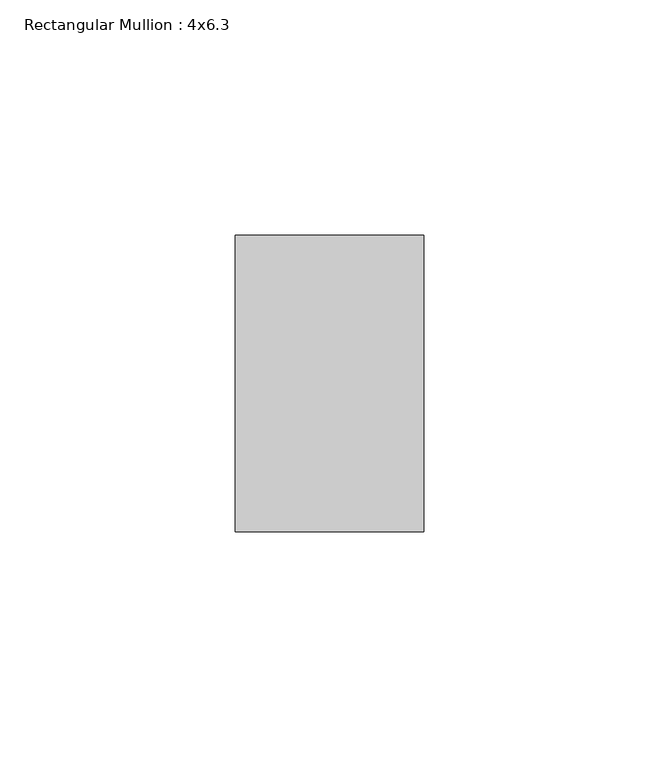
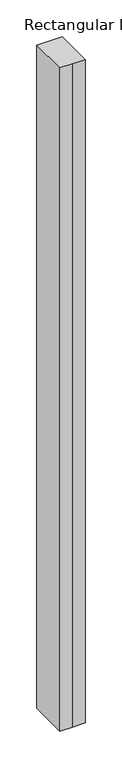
"""IFC4 building model written with IfcOpenShell, lengths in millimetres: member geometry, Rectangular Mullion : 4x6.3."""

from ifc_helpers import new_model, si_unit, frame, origin, place, context, project, spatial, polyline, outline, extrude, source, transform, mapped, element, save


def rectangular_mullion_4x6_3_a50219a7(model_context):
    return source(origin(), model_context, "Body", "SweptSolid", [
        extrude(outline(polyline([(-20.0, 20.0), (-20.0, 83.0), (20.0, 83.0), (20.0, 20.0), (0.0, 20.0), (-20.0, 20.0)])), frame((0.0, 0.0, -1105.4758807), z_axis=(0.0, 0.0, 1.0), x_axis=(1.0, 0.0, 0.0)), (0.0, 0.0, 1.0), 1105.4758807),
    ])


if __name__ == "__main__":
    model = new_model("IFC4")
    model_context = context("Model", 3, world=origin())
    ifc_project = project(units=[si_unit("LENGTHUNIT", "METRE", prefix="MILLI")], contexts=[model_context])
    site = spatial("IfcSite", under=ifc_project)
    building = spatial("IfcBuilding", under=site)
    placement = place(None, origin())
    rectangular_mullion_4x6_3_shape = rectangular_mullion_4x6_3_a50219a7(model_context)
    element("IfcMember", 1, ObjectType="Rectangular Mullion : 4x6.3", at=placement, inside=building, context=model_context, shape_type="MappedRepresentation", body=[
        mapped(rectangular_mullion_4x6_3_shape, transform((0.0, 0.0, 0.0), x_axis=(1.0, 0.0, 0.0), y_axis=(0.0, 1.0, 0.0), z_axis=(0.0, 0.0, 1.0))),
    ])
    save(model, "model.ifc")
